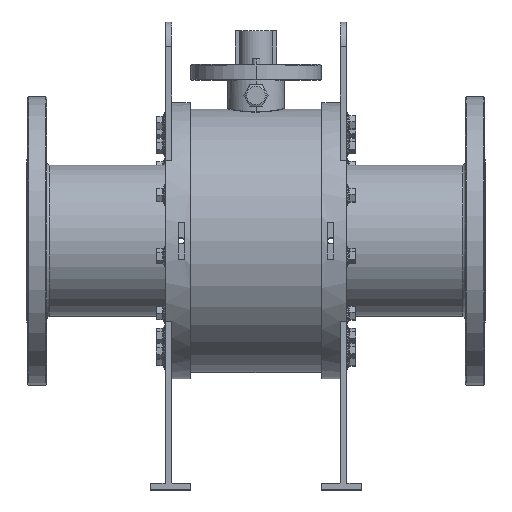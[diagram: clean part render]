
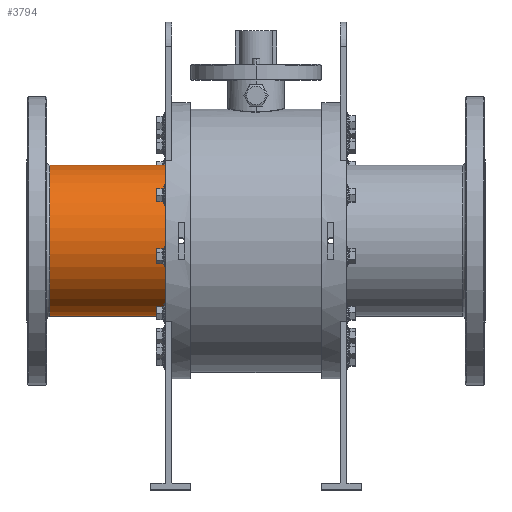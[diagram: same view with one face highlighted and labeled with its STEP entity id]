
A CAD part, top view. The second image highlights one B-rep face of the part: STEP entity #3794.
In plain terms, the highlighted cylindrical face has radius 121.6 mm (diameter 243.2 mm), a partial arc.
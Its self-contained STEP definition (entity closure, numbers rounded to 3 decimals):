
#178 = DIRECTION ( 'NONE',  ( 0., -1., 0. ) ) ;
#181 = CARTESIAN_POINT ( 'NONE',  ( -368.5, -121.6, 0. ) ) ;
#202 = VERTEX_POINT ( 'NONE', #1664 ) ;
#994 = FACE_OUTER_BOUND ( 'NONE', #4873, .T. ) ;
#1057 = LINE ( 'NONE', #8318, #13209 ) ;
#1085 = EDGE_CURVE ( 'NONE', #9057, #202, #8114, .T. ) ;
#1323 = CARTESIAN_POINT ( 'NONE',  ( -331.5, -121.6, 0. ) ) ;
#1589 = CARTESIAN_POINT ( 'NONE',  ( -331.5, 121.6, 0. ) ) ;
#1647 = ORIENTED_EDGE ( 'NONE', *, *, #10529, .T. ) ;
#1664 = CARTESIAN_POINT ( 'NONE',  ( -145., 121.6, 0. ) ) ;
#2254 = ORIENTED_EDGE ( 'NONE', *, *, #1085, .T. ) ;
#3233 = DIRECTION ( 'NONE',  ( -1., 0., 0. ) ) ;
#3438 = DIRECTION ( 'NONE',  ( 0., 0., 1. ) ) ;
#3794 = ADVANCED_FACE ( 'NONE', ( #994 ), #10572, .T. ) ;
#4286 = DIRECTION ( 'NONE',  ( -1., 0., 0. ) ) ;
#4690 = VECTOR ( 'NONE', #3233, 1000. ) ;
#4873 = EDGE_LOOP ( 'NONE', ( #2254, #6725, #1647, #6772 ) ) ;
#5211 = EDGE_CURVE ( 'NONE', #9057, #6230, #12560, .T. ) ;
#5239 = CARTESIAN_POINT ( 'NONE',  ( -331.5, 0., 0. ) ) ;
#5389 = DIRECTION ( 'NONE',  ( 0., -1., 0. ) ) ;
#5567 = EDGE_CURVE ( 'NONE', #202, #9209, #1057, .T. ) ;
#6230 = VERTEX_POINT ( 'NONE', #1323 ) ;
#6426 = CARTESIAN_POINT ( 'NONE',  ( -145., -121.6, 0. ) ) ;
#6725 = ORIENTED_EDGE ( 'NONE', *, *, #5567, .T. ) ;
#6772 = ORIENTED_EDGE ( 'NONE', *, *, #5211, .F. ) ;
#7896 = AXIS2_PLACEMENT_3D ( 'NONE', #5239, #8315, #5389 ) ;
#8114 = CIRCLE ( 'NONE', #10077, 121.6 ) ;
#8315 = DIRECTION ( 'NONE',  ( 1., 0., 0. ) ) ;
#8318 = CARTESIAN_POINT ( 'NONE',  ( -368.5, 121.6, 0. ) ) ;
#9057 = VERTEX_POINT ( 'NONE', #6426 ) ;
#9209 = VERTEX_POINT ( 'NONE', #1589 ) ;
#10077 = AXIS2_PLACEMENT_3D ( 'NONE', #10649, #11655, #3438 ) ;
#10529 = EDGE_CURVE ( 'NONE', #9209, #6230, #12002, .T. ) ;
#10572 = CYLINDRICAL_SURFACE ( 'NONE', #13378, 121.6 ) ;
#10649 = CARTESIAN_POINT ( 'NONE',  ( -145., 0., 0. ) ) ;
#11455 = DIRECTION ( 'NONE',  ( -1., 0., 0. ) ) ;
#11655 = DIRECTION ( 'NONE',  ( -1., 0., 0. ) ) ;
#12002 = CIRCLE ( 'NONE', #7896, 121.6 ) ;
#12560 = LINE ( 'NONE', #181, #4690 ) ;
#12683 = CARTESIAN_POINT ( 'NONE',  ( -368.5, 0., 0. ) ) ;
#13209 = VECTOR ( 'NONE', #4286, 1000. ) ;
#13378 = AXIS2_PLACEMENT_3D ( 'NONE', #12683, #11455, #178 ) ;
